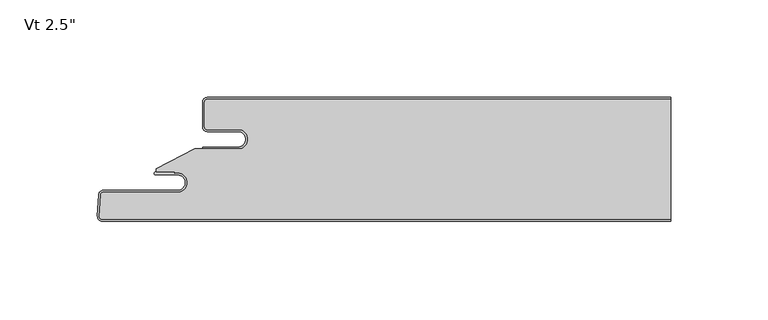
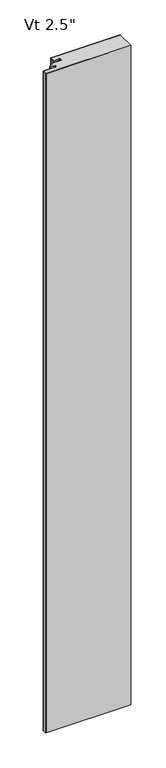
"""IFC4 building model written with IfcOpenShell, lengths in millimetres: plate geometry."""

from ifc_helpers import new_model, si_unit, point, frame_2d, origin, origin_with_axes, place, context, project, spatial, polyline, circle_curve, trimmed, segment, composite_curve, outline, extrude, source, transform, mapped, element, save


def plate_3ce9a7e6(model_context):
    return source(origin(), model_context, "Body", "SweptSolid", [
        extrude(outline(composite_curve([segment(polyline([(-101.3437498, -16.4625), (-117.2187498, -16.4625)]), True, "CONTINUOUS"), segment(trimmed(circle_curve(frame_2d((-117.2187498, -15.08125)), 1.38125), [point((-117.2187498, -16.4625))], [point((-118.5999998, -15.08125))], False, "CARTESIAN"), True, "CONTINUOUS"), segment(polyline([(-118.5999998, -15.08125), (-118.5999998, -2.38125)]), True, "CONTINUOUS"), segment(trimmed(circle_curve(frame_2d((-117.2187498, -2.38125)), 1.38125), [point((-118.5999998, -2.38125))], [point((-117.2187498, -1.0))], False, "CARTESIAN"), True, "CONTINUOUS"), segment(polyline([(-117.2187498, -1.0), (120.4062498, -1.0), (120.4062498, -62.5), (-171.0799534, -62.5)]), True, "CONTINUOUS"), segment(trimmed(circle_curve(frame_2d((-171.0799534, -61.11875)), 1.38125), [point((-171.0799534, -62.5))], [point((-172.4593104, -61.046461))], False, "CARTESIAN"), True, "CONTINUOUS"), segment(polyline([(-172.4593104, -61.046461), (-171.876929, -49.933961)]), True, "CONTINUOUS"), segment(trimmed(circle_curve(frame_2d((-170.4975719, -50.00625)), 1.38125), [point((-171.876929, -49.933961))], [point((-170.4975719, -48.625))], False, "CARTESIAN"), True, "CONTINUOUS"), segment(polyline([(-170.4975719, -48.625), (-132.3142673, -48.625)]), True, "CONTINUOUS"), segment(trimmed(circle_curve(frame_2d((-132.3142673, -43.65625)), 4.96875), [point((-132.3142673, -48.625))], [point((-132.3142673, -38.6875))], True, "CARTESIAN"), True, "CONTINUOUS"), segment(polyline([(-132.3142673, -38.6875), (-133.9017673, -38.89375), (-133.9017673, -38.1), (-143.4124998, -38.1), (-143.4124998, -36.5326309), (-123.5260921, -26.4), (-101.3437498, -26.4)]), True, "CONTINUOUS"), segment(trimmed(circle_curve(frame_2d((-101.3437498, -21.43125)), 4.96875), [point((-101.3437498, -26.4))], [point((-101.3437498, -16.4625))], True, "CARTESIAN"), True, "CONTINUOUS")], self_intersect=False)), origin_with_axes(), (0.0, 0.0, 1.0), 2400.0),
        extrude(outline(composite_curve([segment(polyline([(-119.5999998, -25.4), (-101.3437498, -25.4)]), True, "CONTINUOUS"), segment(trimmed(circle_curve(frame_2d((-101.3437498, -21.43125)), 3.96875), [point((-101.3437498, -25.4))], [point((-101.3437498, -17.4625))], True, "CARTESIAN"), True, "CONTINUOUS"), segment(polyline([(-101.3437498, -17.4625), (-117.2187498, -17.4625)]), True, "CONTINUOUS"), segment(trimmed(circle_curve(frame_2d((-117.2187498, -15.08125)), 2.38125), [point((-117.2187498, -17.4625))], [point((-119.5999998, -15.08125))], False, "CARTESIAN"), True, "CONTINUOUS"), segment(polyline([(-119.5999998, -15.08125), (-119.5999998, -2.38125)]), True, "CONTINUOUS"), segment(trimmed(circle_curve(frame_2d((-117.2187498, -2.38125)), 2.38125), [point((-119.5999998, -2.38125))], [point((-117.2187498, 0.0))], False, "CARTESIAN"), True, "CONTINUOUS"), segment(polyline([(-117.2187498, 0.0), (120.4062498, 0.0), (120.4062498, -1.0), (-117.2187498, -1.0)]), True, "CONTINUOUS"), segment(trimmed(circle_curve(frame_2d((-117.2187498, -2.38125)), 1.38125), [point((-117.2187498, -1.0))], [point((-118.5999998, -2.38125))], True, "CARTESIAN"), True, "CONTINUOUS"), segment(polyline([(-118.5999998, -2.38125), (-118.5999998, -15.08125)]), True, "CONTINUOUS"), segment(trimmed(circle_curve(frame_2d((-117.2187498, -15.08125)), 1.38125), [point((-118.5999998, -15.08125))], [point((-117.2187498, -16.4625))], True, "CARTESIAN"), True, "CONTINUOUS"), segment(polyline([(-117.2187498, -16.4625), (-101.3437498, -16.4625)]), True, "CONTINUOUS"), segment(trimmed(circle_curve(frame_2d((-101.3437498, -21.43125)), 4.96875), [point((-101.3437498, -16.4625))], [point((-101.3437498, -26.4))], False, "CARTESIAN"), True, "CONTINUOUS"), segment(polyline([(-101.3437498, -26.4), (-119.5999998, -26.4), (-119.5999998, -25.4)]), True, "CONTINUOUS")], self_intersect=False)), origin_with_axes(), (0.0, 0.0, 1.0), 2400.0),
        extrude(outline(composite_curve([segment(polyline([(-143.6252048, -38.1), (-133.9017673, -38.1), (-133.9017673, -38.89375), (-132.3142673, -38.6875)]), True, "CONTINUOUS"), segment(trimmed(circle_curve(frame_2d((-132.3142673, -43.65625)), 4.96875), [point((-132.3142673, -38.6875))], [point((-132.3142673, -48.625))], False, "CARTESIAN"), True, "CONTINUOUS"), segment(polyline([(-132.3142673, -48.625), (-170.4975719, -48.625)]), True, "CONTINUOUS"), segment(trimmed(circle_curve(frame_2d((-170.4975719, -50.00625)), 1.38125), [point((-170.4975719, -48.625))], [point((-171.876929, -49.933961))], True, "CARTESIAN"), True, "CONTINUOUS"), segment(polyline([(-171.876929, -49.933961), (-172.4593104, -61.046461)]), True, "CONTINUOUS"), segment(trimmed(circle_curve(frame_2d((-171.0799534, -61.11875)), 1.38125), [point((-172.4593104, -61.046461))], [point((-171.0799534, -62.5))], True, "CARTESIAN"), True, "CONTINUOUS"), segment(polyline([(-171.0799534, -62.5), (120.4062498, -62.5), (120.4062498, -63.5), (-171.0799534, -63.5)]), True, "CONTINUOUS"), segment(trimmed(circle_curve(frame_2d((-171.0799534, -61.11875)), 2.38125), [point((-171.0799534, -63.5))], [point((-173.4579399, -60.994125))], False, "CARTESIAN"), True, "CONTINUOUS"), segment(polyline([(-173.4579399, -60.994125), (-172.8755585, -49.881625)]), True, "CONTINUOUS"), segment(trimmed(circle_curve(frame_2d((-170.4975719, -50.00625)), 2.38125), [point((-172.8755585, -49.881625))], [point((-170.4975719, -47.625))], False, "CARTESIAN"), True, "CONTINUOUS"), segment(polyline([(-170.4975719, -47.625), (-132.3142673, -47.625)]), True, "CONTINUOUS"), segment(trimmed(circle_curve(frame_2d((-132.3142673, -43.65625)), 3.96875), [point((-132.3142673, -47.625))], [point((-132.3142673, -39.6875))], True, "CARTESIAN"), True, "CONTINUOUS"), segment(polyline([(-132.3142673, -39.6875), (-143.6252048, -39.6875)]), True, "CONTINUOUS"), segment(trimmed(circle_curve(frame_2d((-143.6252048, -38.89375)), 0.79375), [point((-143.6252048, -39.6875))], [point((-143.6252048, -38.1))], False, "CARTESIAN"), True, "CONTINUOUS")], self_intersect=False)), origin_with_axes(), (0.0, 0.0, 1.0), 2400.0),
    ])


if __name__ == "__main__":
    model = new_model("IFC4")
    model_context = context("Model", 3, world=origin())
    ifc_project = project(units=[si_unit("LENGTHUNIT", "METRE", prefix="MILLI")], contexts=[model_context])
    site = spatial("IfcSite", under=ifc_project)
    building = spatial("IfcBuilding", under=site)
    placement = place(None, origin())
    plate_shape = plate_3ce9a7e6(model_context)
    element("IfcPlate", 1, ObjectType="KIP-12-DWTR-R19-CP-Vt-F : Vt 2.5\"", at=placement, inside=building, context=model_context, shape_type="MappedRepresentation", body=[
        mapped(plate_shape, transform((0.0, 0.0, 0.0), x_axis=(1.0, 0.0, 0.0), y_axis=(0.0, 1.0, 0.0), z_axis=(0.0, 0.0, 1.0))),
    ])
    save(model, "model.ifc")
